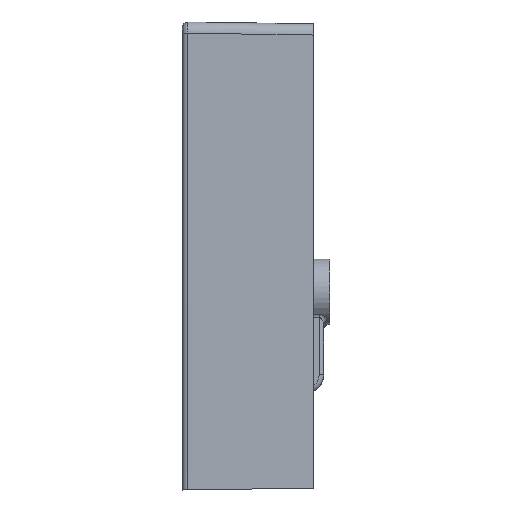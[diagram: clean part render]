
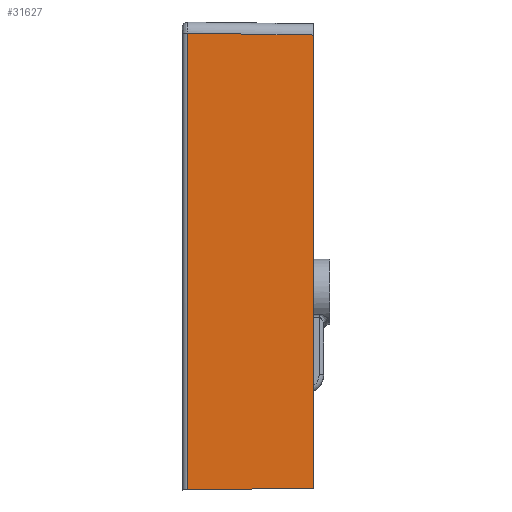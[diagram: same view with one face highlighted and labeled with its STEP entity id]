
A CAD part, left-side view. The second image highlights one B-rep face of the part: STEP entity #31627.
In plain terms, the highlighted planar face has unit normal (-1, -0.014, 0).
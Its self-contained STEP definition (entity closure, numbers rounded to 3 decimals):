
#2567 = VERTEX_POINT ( 'NONE', #35644 ) ;
#2596 = PLANE ( 'NONE',  #13377 ) ;
#2658 = DIRECTION ( 'NONE',  ( 0.014, -1., 0.014 ) ) ;
#5458 = CARTESIAN_POINT ( 'NONE',  ( -299.913, -6.086, 487.914 ) ) ;
#5589 = DIRECTION ( 'NONE',  ( 0.014, -1., -0.014 ) ) ;
#6372 = FACE_OUTER_BOUND ( 'NONE', #37593, .T. ) ;
#6945 = CARTESIAN_POINT ( 'NONE',  ( -298., -140., 500. ) ) ;
#8618 = EDGE_CURVE ( 'NONE', #9864, #30162, #26984, .T. ) ;
#8851 = EDGE_CURVE ( 'NONE', #24260, #2567, #37007, .T. ) ;
#9864 = VERTEX_POINT ( 'NONE', #34378 ) ;
#9965 = DIRECTION ( 'NONE',  ( 0., 0., -1. ) ) ;
#10490 = DIRECTION ( 'NONE',  ( 0., 0., 1. ) ) ;
#10833 = VECTOR ( 'NONE', #5589, 1000. ) ;
#13377 = AXIS2_PLACEMENT_3D ( 'NONE', #23731, #32843, #14341 ) ;
#14341 = DIRECTION ( 'NONE',  ( -0.014, 1., 0. ) ) ;
#14401 = LINE ( 'NONE', #15049, #35220 ) ;
#14640 = LINE ( 'NONE', #5458, #10833 ) ;
#15049 = CARTESIAN_POINT ( 'NONE',  ( -299.913, -6.086, 0.087 ) ) ;
#15617 = ORIENTED_EDGE ( 'NONE', *, *, #8618, .F. ) ;
#16135 = VECTOR ( 'NONE', #10490, 1000. ) ;
#17777 = EDGE_CURVE ( 'NONE', #2567, #9864, #14640, .T. ) ;
#19991 = VECTOR ( 'NONE', #9965, 1000. ) ;
#23731 = CARTESIAN_POINT ( 'NONE',  ( -300., 0.029, 500. ) ) ;
#24260 = VERTEX_POINT ( 'NONE', #29317 ) ;
#25717 = CARTESIAN_POINT ( 'NONE',  ( -299.913, -6.086, 500. ) ) ;
#25795 = ORIENTED_EDGE ( 'NONE', *, *, #17777, .F. ) ;
#26984 = LINE ( 'NONE', #6945, #19991 ) ;
#27278 = EDGE_CURVE ( 'NONE', #24260, #30162, #14401, .T. ) ;
#28869 = ORIENTED_EDGE ( 'NONE', *, *, #27278, .T. ) ;
#29317 = CARTESIAN_POINT ( 'NONE',  ( -299.913, -6.086, 0.087 ) ) ;
#30162 = VERTEX_POINT ( 'NONE', #38053 ) ;
#31627 = ADVANCED_FACE ( 'NONE', ( #6372 ), #2596, .F. ) ;
#32843 = DIRECTION ( 'NONE',  ( 1., 0.014, 0. ) ) ;
#34378 = CARTESIAN_POINT ( 'NONE',  ( -298., -140., 486.001 ) ) ;
#35220 = VECTOR ( 'NONE', #2658, 1000. ) ;
#35644 = CARTESIAN_POINT ( 'NONE',  ( -299.913, -6.086, 487.914 ) ) ;
#37007 = LINE ( 'NONE', #25717, #16135 ) ;
#37593 = EDGE_LOOP ( 'NONE', ( #38946, #28869, #15617, #25795 ) ) ;
#38053 = CARTESIAN_POINT ( 'NONE',  ( -298., -140., 2. ) ) ;
#38946 = ORIENTED_EDGE ( 'NONE', *, *, #8851, .F. ) ;
